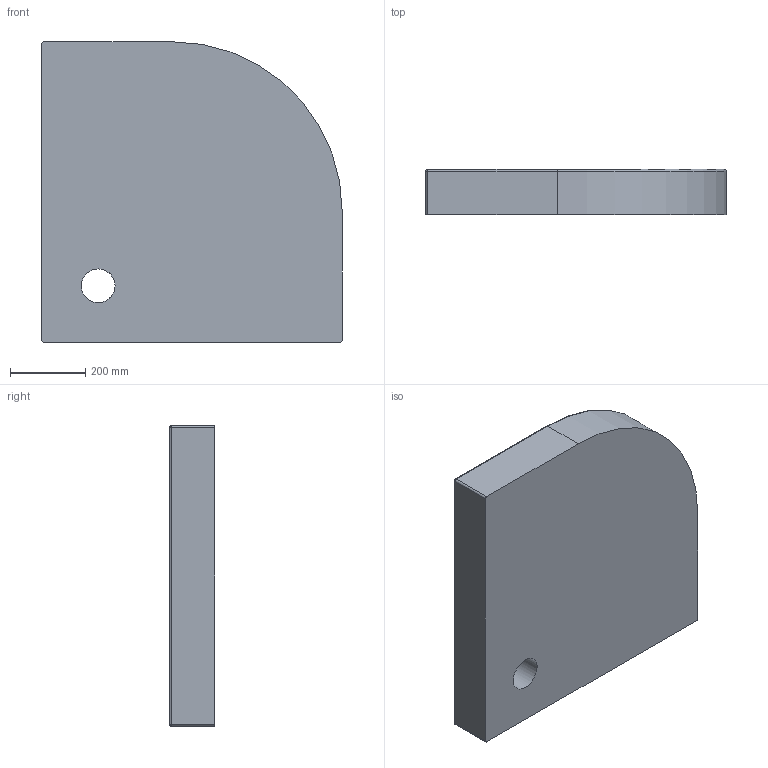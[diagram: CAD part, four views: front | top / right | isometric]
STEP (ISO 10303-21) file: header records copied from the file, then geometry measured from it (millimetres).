
FILE_DESCRIPTION(/* description */ (''),/* implementation_level */ '2;1');
FILE_NAME(/* name */ 'c:\worker\convert-fusion-r09\tmp\job-1\9\output\files\b8d85ce6-0bcf-417c-a911-21985efe12b4\37097f76-2ffb-4582-ab65-3285d03c6eda.stp',/* time_stamp */ '2020-01-03T09:43:23+00:00',/* author */ (''),/* organization */ (''),/* preprocessor_version */ 'ST-DEVELOPER v18',/* originating_system */ 'Autodesk Translation Framework v8.12.0.6',/* authorisation */ '');
FILE_SCHEMA (('AUTOMOTIVE_DESIGN { 1 0 10303 214 3 1 1 }'));
Length unit declared in the file: millimetre
Products named in the file (1): Camden 80/O
Bounding box: 800 x 120 x 800 mm (x, y, z)
Volume: 61779888.7 mm3; surface area: 1600934 mm2
Topology: 1 solids, 1 shells, 47 faces, 100 edges, 56 vertices
Faces by surface type: cylinder 21, plane 11, sphere 6, torus 5, bspline 4
Full cylindrical faces by diameter (mm): 90 x1
Entity records: 1872 total; most frequent: CARTESIAN_POINT 809, DIRECTION 232, ORIENTED_EDGE 202, EDGE_CURVE 101, AXIS2_PLACEMENT_3D 93, VERTEX_POINT 57, EDGE_LOOP 50, FACE_OUTER_BOUND 47
